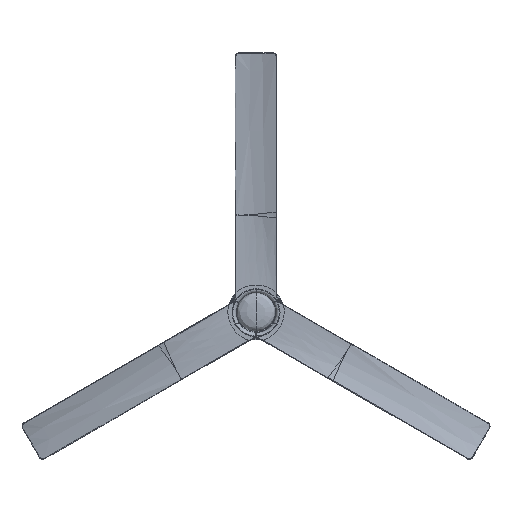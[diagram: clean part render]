
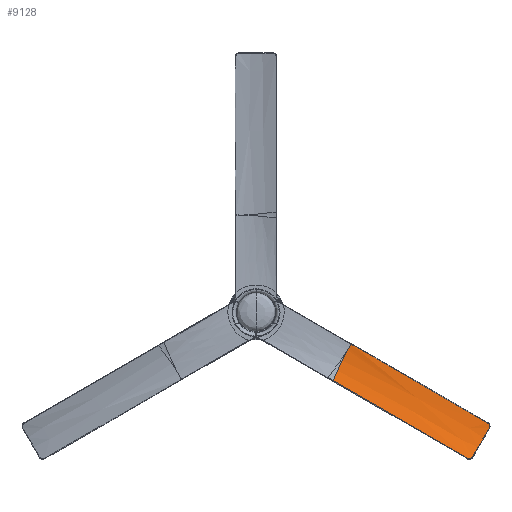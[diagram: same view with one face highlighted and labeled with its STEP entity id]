
A CAD part, top view. The second image highlights one B-rep face of the part: STEP entity #9128.
In plain terms, the highlighted free-form (B-spline) face has degree [3, 3] with [4, 8] control points.
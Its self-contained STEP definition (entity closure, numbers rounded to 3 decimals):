
#70=B_SPLINE_SURFACE_WITH_KNOTS('',3,3,((#17776,#17777,#17778,#17779,#17780,
#17781,#17782,#17783),(#17784,#17785,#17786,#17787,#17788,#17789,#17790,
#17791),(#17792,#17793,#17794,#17795,#17796,#17797,#17798,#17799),(#17800,
#17801,#17802,#17803,#17804,#17805,#17806,#17807)),.UNSPECIFIED.,.F.,.F.,
 .F.,(4,4),(4,1,1,1,1,4),(0.,0.977),(0.,0.108,
0.228,0.478,0.727,0.998),
 .UNSPECIFIED.);
#362=B_SPLINE_CURVE_WITH_KNOTS('',3,(#16578,#16579,#16580,#16581,#16582),
 .UNSPECIFIED.,.F.,.F.,(4,1,4),(0.,0.5,1.),.UNSPECIFIED.);
#365=B_SPLINE_CURVE_WITH_KNOTS('',3,(#16624,#16625,#16626,#16627,#16628),
 .UNSPECIFIED.,.F.,.F.,(4,1,4),(0.,0.5,1.),
 .UNSPECIFIED.);
#393=B_SPLINE_CURVE_WITH_KNOTS('',3,(#17476,#17477,#17478,#17479,#17480,
#17481,#17482,#17483,#17484,#17485,#17486),.UNSPECIFIED.,.F.,.F.,(4,1,1,
1,1,1,1,1,4),(0.,0.125,0.25,0.375,0.5,0.625,0.75,0.875,1.),
 .UNSPECIFIED.);
#399=B_SPLINE_CURVE_WITH_KNOTS('',3,(#17648,#17649,#17650,#17651,#17652,
#17653),.UNSPECIFIED.,.F.,.F.,(4,1,1,4),(0.,0.333,0.667,
1.),.UNSPECIFIED.);
#400=B_SPLINE_CURVE_WITH_KNOTS('',3,(#17754,#17755,#17756,#17757,#17758,
#17759,#17760,#17761,#17762,#17763,#17764,#17765,#17766,#17767),
 .UNSPECIFIED.,.F.,.F.,(4,1,1,1,1,1,1,1,1,1,1,4),(0.,0.091,
0.182,0.273,0.364,0.455,
0.545,0.636,0.727,0.818,
0.909,1.),.UNSPECIFIED.);
#402=B_SPLINE_CURVE_WITH_KNOTS('',3,(#17808,#17809,#17810,#17811,#17812),
 .UNSPECIFIED.,.F.,.F.,(4,1,4),(0.,0.5,1.),.UNSPECIFIED.);
#1303=FACE_OUTER_BOUND('',#1629,.T.);
#1629=EDGE_LOOP('',(#7815,#7816,#7817,#7818,#7819,#7820));
#4050=VERTEX_POINT('',#16576);
#4051=VERTEX_POINT('',#16577);
#4052=VERTEX_POINT('',#16623);
#4071=VERTEX_POINT('',#17474);
#4072=VERTEX_POINT('',#17475);
#4075=VERTEX_POINT('',#17646);
#5586=EDGE_CURVE('',#4050,#4051,#362,.T.);
#5589=EDGE_CURVE('',#4052,#4050,#365,.T.);
#5618=EDGE_CURVE('',#4071,#4072,#393,.T.);
#5625=EDGE_CURVE('',#4075,#4071,#399,.T.);
#5626=EDGE_CURVE('',#4051,#4075,#400,.T.);
#5628=EDGE_CURVE('',#4052,#4072,#402,.T.);
#7815=ORIENTED_EDGE('',*,*,#5626,.T.);
#7816=ORIENTED_EDGE('',*,*,#5625,.T.);
#7817=ORIENTED_EDGE('',*,*,#5618,.T.);
#7818=ORIENTED_EDGE('',*,*,#5628,.F.);
#7819=ORIENTED_EDGE('',*,*,#5589,.T.);
#7820=ORIENTED_EDGE('',*,*,#5586,.T.);
#9128=ADVANCED_FACE('',(#1303),#70,.F.);
#16576=CARTESIAN_POINT('',(-40.115,12.676,624.041));
#16577=CARTESIAN_POINT('',(-49.064,12.682,615.041));
#16578=CARTESIAN_POINT('Ctrl Pts',(-40.115,12.676,624.041));
#16579=CARTESIAN_POINT('Ctrl Pts',(-42.848,12.915,623.777));
#16580=CARTESIAN_POINT('Ctrl Pts',(-47.073,13.156,622.013));
#16581=CARTESIAN_POINT('Ctrl Pts',(-48.814,12.919,617.777));
#16582=CARTESIAN_POINT('Ctrl Pts',(-49.064,12.682,615.041));
#16623=CARTESIAN_POINT('',(39.59,-8.375,624.065));
#16624=CARTESIAN_POINT('Ctrl Pts',(39.59,-8.375,624.065));
#16625=CARTESIAN_POINT('Ctrl Pts',(26.842,-2.838,624.061));
#16626=CARTESIAN_POINT('Ctrl Pts',(0.809,6.207,624.053));
#16627=CARTESIAN_POINT('Ctrl Pts',(-26.295,11.196,624.045));
#16628=CARTESIAN_POINT('Ctrl Pts',(-40.115,12.676,624.041));
#17474=CARTESIAN_POINT('',(48.658,-14.351,242.194));
#17475=CARTESIAN_POINT('',(48.573,-12.538,615.057));
#17476=CARTESIAN_POINT('Ctrl Pts',(48.658,-14.351,242.194));
#17477=CARTESIAN_POINT('Ctrl Pts',(48.655,-14.142,288.474));
#17478=CARTESIAN_POINT('Ctrl Pts',(48.649,-13.865,349.413));
#17479=CARTESIAN_POINT('Ctrl Pts',(48.641,-13.657,393.193));
#17480=CARTESIAN_POINT('Ctrl Pts',(48.633,-13.451,436.576));
#17481=CARTESIAN_POINT('Ctrl Pts',(48.625,-13.247,479.354));
#17482=CARTESIAN_POINT('Ctrl Pts',(48.615,-13.053,518.88));
#17483=CARTESIAN_POINT('Ctrl Pts',(48.603,-12.868,555.226));
#17484=CARTESIAN_POINT('Ctrl Pts',(48.589,-12.695,587.672));
#17485=CARTESIAN_POINT('Ctrl Pts',(48.579,-12.588,606.447));
#17486=CARTESIAN_POINT('Ctrl Pts',(48.573,-12.538,615.057));
#17646=CARTESIAN_POINT('',(-48.964,1.032,235.292));
#17648=CARTESIAN_POINT('Ctrl Pts',(-48.964,1.032,235.292));
#17649=CARTESIAN_POINT('Ctrl Pts',(-37.845,1.416,234.573));
#17650=CARTESIAN_POINT('Ctrl Pts',(-15.654,0.764,
235.024));
#17651=CARTESIAN_POINT('Ctrl Pts',(17.089,-4.402,238.672));
#17652=CARTESIAN_POINT('Ctrl Pts',(38.286,-10.586,241.289));
#17653=CARTESIAN_POINT('Ctrl Pts',(48.658,-14.351,242.194));
#17754=CARTESIAN_POINT('Ctrl Pts',(-49.064,12.682,615.041));
#17755=CARTESIAN_POINT('Ctrl Pts',(-49.045,10.552,584.018));
#17756=CARTESIAN_POINT('Ctrl Pts',(-49.023,8.137,543.918));
#17757=CARTESIAN_POINT('Ctrl Pts',(-49.014,7.202,515.626));
#17758=CARTESIAN_POINT('Ctrl Pts',(-49.005,6.107,485.208));
#17759=CARTESIAN_POINT('Ctrl Pts',(-48.994,4.842,439.167));
#17760=CARTESIAN_POINT('Ctrl Pts',(-48.988,4.103,410.76));
#17761=CARTESIAN_POINT('Ctrl Pts',(-48.984,3.587,390.208));
#17762=CARTESIAN_POINT('Ctrl Pts',(-48.978,2.952,363.171));
#17763=CARTESIAN_POINT('Ctrl Pts',(-48.974,2.368,335.207));
#17764=CARTESIAN_POINT('Ctrl Pts',(-48.969,1.83,304.613));
#17765=CARTESIAN_POINT('Ctrl Pts',(-48.966,1.367,271.594));
#17766=CARTESIAN_POINT('Ctrl Pts',(-48.965,1.129,247.738));
#17767=CARTESIAN_POINT('Ctrl Pts',(-48.964,1.032,235.292));
#17776=CARTESIAN_POINT('Ctrl Pts',(-49.064,13.472,624.038));
#17777=CARTESIAN_POINT('Ctrl Pts',(-49.066,12.177,609.97));
#17778=CARTESIAN_POINT('Ctrl Pts',(-49.07,10.067,580.33));
#17779=CARTESIAN_POINT('Ctrl Pts',(-49.074,7.029,518.245));
#17780=CARTESIAN_POINT('Ctrl Pts',(-49.078,4.768,437.783));
#17781=CARTESIAN_POINT('Ctrl Pts',(-49.081,2.239,337.767));
#17782=CARTESIAN_POINT('Ctrl Pts',(-49.083,1.297,270.192));
#17783=CARTESIAN_POINT('Ctrl Pts',(-49.083,1.026,235.062));
#17784=CARTESIAN_POINT('Ctrl Pts',(-15.229,11.034,624.049));
#17785=CARTESIAN_POINT('Ctrl Pts',(-15.305,10.159,609.979));
#17786=CARTESIAN_POINT('Ctrl Pts',(-15.429,8.723,580.335));
#17787=CARTESIAN_POINT('Ctrl Pts',(-15.604,6.62,518.247));
#17788=CARTESIAN_POINT('Ctrl Pts',(-15.727,5.003,437.782));
#17789=CARTESIAN_POINT('Ctrl Pts',(-15.862,3.177,337.763));
#17790=CARTESIAN_POINT('Ctrl Pts',(-15.904,2.451,270.187));
#17791=CARTESIAN_POINT('Ctrl Pts',(-15.912,2.219,235.057));
#17792=CARTESIAN_POINT('Ctrl Pts',(18.13,2.155,624.088));
#17793=CARTESIAN_POINT('Ctrl Pts',(18.059,1.694,610.015));
#17794=CARTESIAN_POINT('Ctrl Pts',(17.942,0.923,580.369));
#17795=CARTESIAN_POINT('Ctrl Pts',(17.775,-0.249,
518.277));
#17796=CARTESIAN_POINT('Ctrl Pts',(17.658,-1.224,437.809));
#17797=CARTESIAN_POINT('Ctrl Pts',(17.528,-2.347,337.787));
#17798=CARTESIAN_POINT('Ctrl Pts',(17.487,-2.854,270.21));
#17799=CARTESIAN_POINT('Ctrl Pts',(17.48,-3.046,235.08));
#17800=CARTESIAN_POINT('Ctrl Pts',(48.701,-12.547,624.152));
#17801=CARTESIAN_POINT('Ctrl Pts',(48.698,-12.625,610.078));
#17802=CARTESIAN_POINT('Ctrl Pts',(48.693,-12.781,580.429));
#17803=CARTESIAN_POINT('Ctrl Pts',(48.686,-13.088,518.333));
#17804=CARTESIAN_POINT('Ctrl Pts',(48.682,-13.465,437.863));
#17805=CARTESIAN_POINT('Ctrl Pts',(48.676,-13.929,337.837));
#17806=CARTESIAN_POINT('Ctrl Pts',(48.675,-14.233,270.26));
#17807=CARTESIAN_POINT('Ctrl Pts',(48.674,-14.388,235.13));
#17808=CARTESIAN_POINT('Ctrl Pts',(39.59,-8.375,624.065));
#17809=CARTESIAN_POINT('Ctrl Pts',(42.218,-9.554,623.913));
#17810=CARTESIAN_POINT('Ctrl Pts',(46.343,-11.427,622.26));
#17811=CARTESIAN_POINT('Ctrl Pts',(48.207,-12.329,617.907));
#17812=CARTESIAN_POINT('Ctrl Pts',(48.573,-12.538,615.057));
